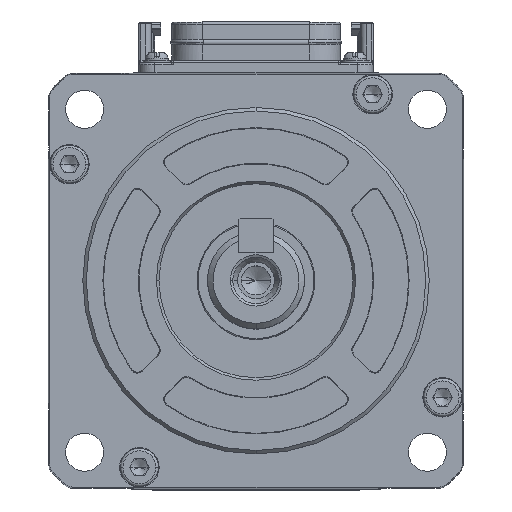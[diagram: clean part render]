
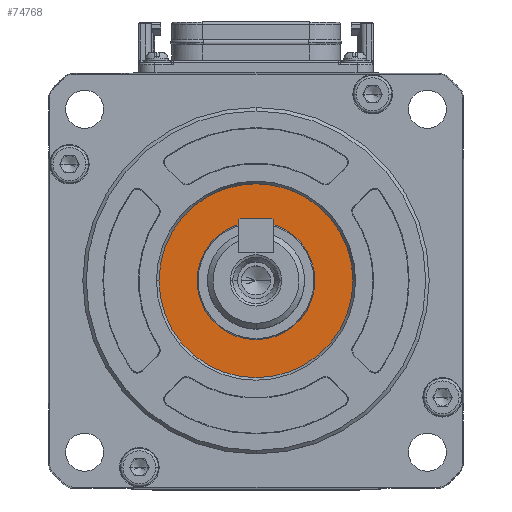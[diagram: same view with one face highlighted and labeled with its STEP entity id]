
A CAD part, top view. The second image highlights one B-rep face of the part: STEP entity #74768.
In plain terms, the highlighted planar face has unit normal (0, 0, 1).
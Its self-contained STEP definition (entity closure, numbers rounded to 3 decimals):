
#3733 = DIRECTION ( 'NONE',  ( 0., 1., 0. ) ) ;
#5428 = VERTEX_POINT ( 'NONE', #27597 ) ;
#6948 = CARTESIAN_POINT ( 'NONE',  ( 0., 0., 44.347 ) ) ;
#8378 = VERTEX_POINT ( 'NONE', #88253 ) ;
#10666 = CARTESIAN_POINT ( 'NONE',  ( 0., 0., 44.347 ) ) ;
#12416 = DIRECTION ( 'NONE',  ( 0., 0., 1. ) ) ;
#14915 = CARTESIAN_POINT ( 'NONE',  ( 0., 0., 44.347 ) ) ;
#17669 = DIRECTION ( 'NONE',  ( 0., 0., -1. ) ) ;
#21342 = CARTESIAN_POINT ( 'NONE',  ( 0., -14., 44.347 ) ) ;
#21696 = FACE_BOUND ( 'NONE', #21738, .T. ) ;
#21738 = EDGE_LOOP ( 'NONE', ( #25615, #76634 ) ) ;
#22091 = EDGE_LOOP ( 'NONE', ( #50690, #66239 ) ) ;
#24331 = AXIS2_PLACEMENT_3D ( 'NONE', #37814, #71666, #3733 ) ;
#25615 = ORIENTED_EDGE ( 'NONE', *, *, #82574, .F. ) ;
#27597 = CARTESIAN_POINT ( 'NONE',  ( 0., 14., 44.347 ) ) ;
#28536 = DIRECTION ( 'NONE',  ( 0., 0., 1. ) ) ;
#31878 = EDGE_CURVE ( 'NONE', #38295, #8378, #70726, .T. ) ;
#36660 = DIRECTION ( 'NONE',  ( 0., 1., 0. ) ) ;
#37814 = CARTESIAN_POINT ( 'NONE',  ( 0., 0., 44.347 ) ) ;
#38043 = DIRECTION ( 'NONE',  ( 0., 1., 0. ) ) ;
#38295 = VERTEX_POINT ( 'NONE', #81442 ) ;
#39252 = VERTEX_POINT ( 'NONE', #21342 ) ;
#40020 = FACE_OUTER_BOUND ( 'NONE', #22091, .T. ) ;
#45084 = AXIS2_PLACEMENT_3D ( 'NONE', #14915, #28536, #36660 ) ;
#47294 = AXIS2_PLACEMENT_3D ( 'NONE', #10666, #17669, #87419 ) ;
#50690 = ORIENTED_EDGE ( 'NONE', *, *, #73308, .F. ) ;
#52248 = DIRECTION ( 'NONE',  ( 0., 0., 1. ) ) ;
#60765 = AXIS2_PLACEMENT_3D ( 'NONE', #72474, #52248, #38043 ) ;
#63597 = CIRCLE ( 'NONE', #24331, 14. ) ;
#63823 = PLANE ( 'NONE',  #45084 ) ;
#66185 = AXIS2_PLACEMENT_3D ( 'NONE', #6948, #12416, #88564 ) ;
#66239 = ORIENTED_EDGE ( 'NONE', *, *, #76235, .F. ) ;
#66400 = CIRCLE ( 'NONE', #66185, 8.5 ) ;
#70726 = CIRCLE ( 'NONE', #60765, 8.5 ) ;
#71666 = DIRECTION ( 'NONE',  ( 0., 0., -1. ) ) ;
#72474 = CARTESIAN_POINT ( 'NONE',  ( 0., 0., 44.347 ) ) ;
#73308 = EDGE_CURVE ( 'NONE', #5428, #39252, #80253, .T. ) ;
#74768 = ADVANCED_FACE ( 'NONE', ( #21696, #40020 ), #63823, .T. ) ;
#76235 = EDGE_CURVE ( 'NONE', #39252, #5428, #63597, .T. ) ;
#76634 = ORIENTED_EDGE ( 'NONE', *, *, #31878, .F. ) ;
#80253 = CIRCLE ( 'NONE', #47294, 14. ) ;
#81442 = CARTESIAN_POINT ( 'NONE',  ( 8.5, 0., 44.347 ) ) ;
#82574 = EDGE_CURVE ( 'NONE', #8378, #38295, #66400, .T. ) ;
#87419 = DIRECTION ( 'NONE',  ( 0., 1., 0. ) ) ;
#88253 = CARTESIAN_POINT ( 'NONE',  ( -8.5, 0., 44.347 ) ) ;
#88564 = DIRECTION ( 'NONE',  ( 0., 1., 0. ) ) ;
